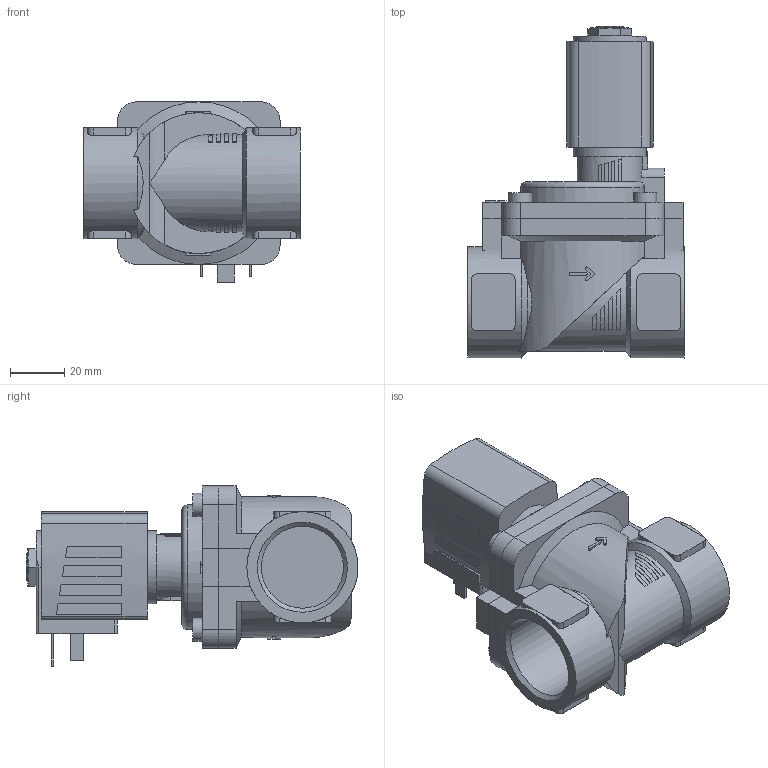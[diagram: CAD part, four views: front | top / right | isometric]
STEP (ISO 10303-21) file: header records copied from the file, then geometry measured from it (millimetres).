
FILE_DESCRIPTION(/* description */ ('STEP AP214'),/* implementation_level */ '2;1');
FILE_NAME(/* name */ '6281-348834-2_2-Way_Solenoid_Valve__Servo-assisted__General_Purpose',/* time_stamp */ '2024-05-27T11:40:31+02:00',/* author */ ('License CC BY-ND 4.0'),/* organization */ ('CADENAS'),/* preprocessor_version */ 'ST-DEVELOPER v19.3',/* originating_system */ 'PARTsolutions',/* authorisation */ ' ');
FILE_SCHEMA (('AUTOMOTIVE_DESIGN {1 0 10303 214 3 1 1}'));
Length unit declared in the file: millimetre
Products named in the file (4): 6281-348834-2/2-Way Solenoid Valve, Servo-assisted, General Purpose; 5281ev200MS2/2-Wege-Magnetventil mit Servomembran-Deckel   ; 6213-20G1MS-Gehaeuse-; AC10ex-5NA38-Plan-Coil
Assembly tree (3 placements, depth 2):
  6281-348834-2/2-Way Solenoid Valve, Servo-assisted, General Purpose
    5281ev200MS2/2-Wege-Magnetventil mit Servomembran-Deckel   
    6213-20G1MS-Gehaeuse-
    AC10ex-5NA38-Plan-Coil
Bounding box: 80 x 122.5 x 66.5 mm (x, y, z)
Volume: 212163.8 mm3; surface area: 46083 mm2
Topology: 3 solids, 3 shells, 332 faces, 847 edges, 559 vertices
Faces by surface type: plane 229, cylinder 87, cone 15, torus 1
Full cylindrical faces by diameter (mm): 2.013 x1, 8.5 x4, 9.74 x1, 27 x1, 30.291 x2, 41 x2
Entity records: 11298 total; most frequent: CARTESIAN_POINT 1993, DIRECTION 1676, ORIENTED_EDGE 1648, EDGE_CURVE 824, AXIS2_PLACEMENT_3D 588, VERTEX_POINT 551, LINE 500, VECTOR 500
